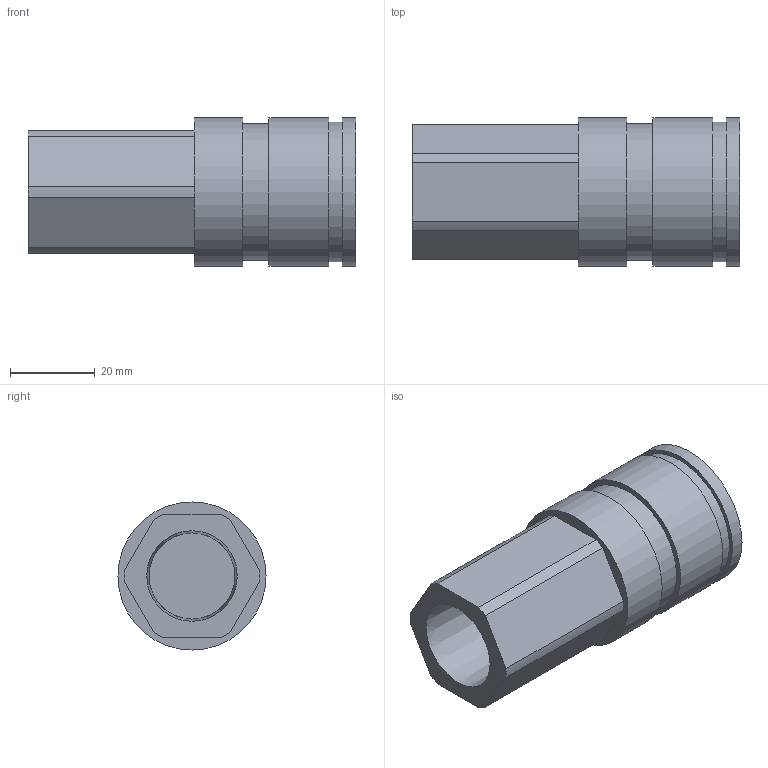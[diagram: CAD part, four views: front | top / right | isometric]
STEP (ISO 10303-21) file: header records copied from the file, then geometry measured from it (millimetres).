
FILE_DESCRIPTION((''),'2;1');
FILE_NAME('Z:\客先\あ行\アオイ\99_その他\3D_DATA\CPR_Series\2CPR-SSV-RC\STEP\203\CPR-SSV-RC1-2.ipt.stp','2008-07-01T11:29:15',(''),(''),'Autodesk Inventor 2009','Autodesk Inventor 2009','');
FILE_SCHEMA(('CONFIG_CONTROL_DESIGN'));
Length unit declared in the file: millimetre
Products named in the file (1): CPR-SSV-RC1-2
Bounding box: 77.4 x 35 x 35 mm (x, y, z)
Volume: 46066.2 mm3; surface area: 13532.4 mm2
Topology: 1 solids, 1 shells, 28 faces, 57 edges, 38 vertices
Faces by surface type: plane 15, cylinder 12, cone 1
Full cylindrical faces by diameter (mm): 23.3 x1, 32.3 x1, 33 x1, 35 x3
Entity records: 729 total; most frequent: DIRECTION 134, CARTESIAN_POINT 117, ORIENTED_EDGE 100, AXIS2_PLACEMENT_3D 55, EDGE_CURVE 50, EDGE_LOOP 42, VERTEX_POINT 38, FACE_OUTER_BOUND 28
